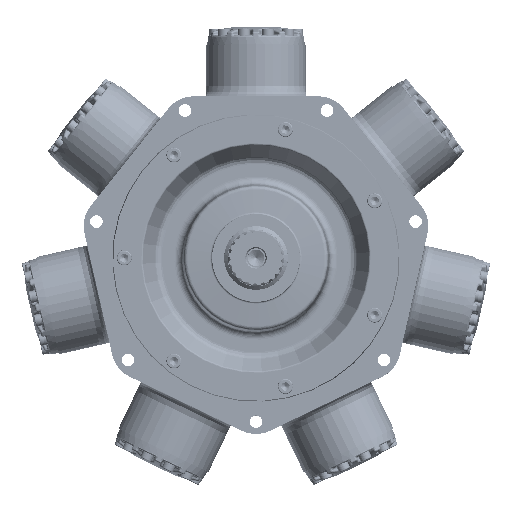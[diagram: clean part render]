
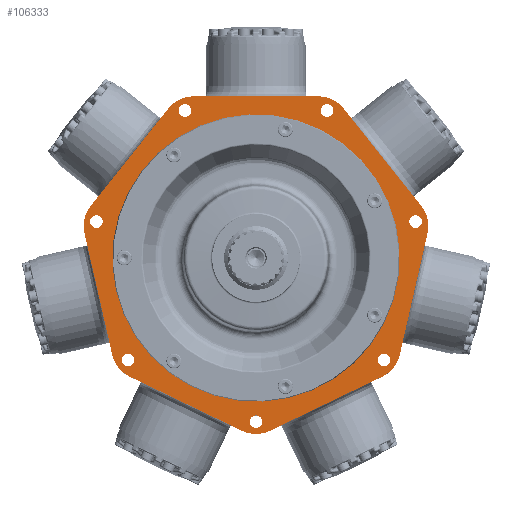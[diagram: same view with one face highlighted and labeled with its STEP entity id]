
A CAD part, top view. The second image highlights one B-rep face of the part: STEP entity #106333.
In plain terms, the highlighted planar face has unit normal (0, 0, 1).
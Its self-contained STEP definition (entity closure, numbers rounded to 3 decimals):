
#1584=FACE_BOUND('',#28086,.T.);
#1585=FACE_BOUND('',#28087,.T.);
#1586=FACE_BOUND('',#28088,.T.);
#1587=FACE_BOUND('',#28089,.T.);
#1588=FACE_BOUND('',#28090,.T.);
#1589=FACE_BOUND('',#28091,.T.);
#1590=FACE_BOUND('',#28092,.T.);
#1591=FACE_BOUND('',#28093,.T.);
#7415=LINE('',#276835,#12183);
#7615=LINE('',#280331,#12383);
#7668=LINE('',#281817,#12436);
#7686=LINE('',#282646,#12454);
#7697=LINE('',#282670,#12465);
#7707=LINE('',#282730,#12475);
#7716=LINE('',#282765,#12484);
#12183=VECTOR('',#135401,10.);
#12383=VECTOR('',#136059,10.);
#12436=VECTOR('',#136354,10.);
#12454=VECTOR('',#136472,10.);
#12465=VECTOR('',#136491,10.);
#12475=VECTOR('',#136535,10.);
#12484=VECTOR('',#136556,10.);
#14187=PLANE('',#114879);
#21442=FACE_OUTER_BOUND('',#28085,.T.);
#28085=EDGE_LOOP('',(#91309,#91310,#91311,#91312,#91313,#91314,#91315,#91316,
#91317,#91318,#91319,#91320,#91321,#91322));
#28086=EDGE_LOOP('',(#91323));
#28087=EDGE_LOOP('',(#91324));
#28088=EDGE_LOOP('',(#91325));
#28089=EDGE_LOOP('',(#91326));
#28090=EDGE_LOOP('',(#91327));
#28091=EDGE_LOOP('',(#91328));
#28092=EDGE_LOOP('',(#91329));
#28093=EDGE_LOOP('',(#91330));
#29930=CIRCLE('',#110167,228.555);
#32065=CIRCLE('',#114743,50.8);
#32080=CIRCLE('',#114765,10.);
#32082=CIRCLE('',#114768,10.);
#32084=CIRCLE('',#114771,10.);
#32086=CIRCLE('',#114774,10.);
#32088=CIRCLE('',#114777,10.);
#32090=CIRCLE('',#114780,10.);
#32092=CIRCLE('',#114783,10.);
#32097=CIRCLE('',#114793,50.8);
#32101=CIRCLE('',#114802,50.8);
#32105=CIRCLE('',#114810,50.8);
#32109=CIRCLE('',#114820,50.8);
#32116=CIRCLE('',#114836,50.8);
#32120=CIRCLE('',#114844,50.8);
#40994=VERTEX_POINT('',#200211);
#45748=VERTEX_POINT('',#276832);
#45749=VERTEX_POINT('',#276834);
#46028=VERTEX_POINT('',#280328);
#46029=VERTEX_POINT('',#280330);
#46116=VERTEX_POINT('',#281814);
#46117=VERTEX_POINT('',#281816);
#46122=VERTEX_POINT('',#281829);
#46137=VERTEX_POINT('',#282578);
#46139=VERTEX_POINT('',#282584);
#46141=VERTEX_POINT('',#282590);
#46143=VERTEX_POINT('',#282596);
#46145=VERTEX_POINT('',#282602);
#46147=VERTEX_POINT('',#282608);
#46149=VERTEX_POINT('',#282614);
#46155=VERTEX_POINT('',#282645);
#46159=VERTEX_POINT('',#282656);
#46164=VERTEX_POINT('',#282669);
#46168=VERTEX_POINT('',#282716);
#46173=VERTEX_POINT('',#282729);
#46180=VERTEX_POINT('',#282762);
#46181=VERTEX_POINT('',#282764);
#52625=EDGE_CURVE('',#40994,#40994,#29930,.T.);
#60484=EDGE_CURVE('',#45748,#45749,#7415,.T.);
#60925=EDGE_CURVE('',#46028,#46029,#7615,.T.);
#61094=EDGE_CURVE('',#46116,#46117,#7668,.T.);
#61101=EDGE_CURVE('',#46029,#46122,#32065,.T.);
#61138=EDGE_CURVE('',#46137,#46137,#32080,.T.);
#61141=EDGE_CURVE('',#46139,#46139,#32082,.T.);
#61144=EDGE_CURVE('',#46141,#46141,#32084,.T.);
#61147=EDGE_CURVE('',#46143,#46143,#32086,.T.);
#61150=EDGE_CURVE('',#46145,#46145,#32088,.T.);
#61153=EDGE_CURVE('',#46147,#46147,#32090,.T.);
#61156=EDGE_CURVE('',#46149,#46149,#32092,.T.);
#61166=EDGE_CURVE('',#46122,#46155,#7686,.T.);
#61172=EDGE_CURVE('',#46155,#46159,#32097,.T.);
#61179=EDGE_CURVE('',#46159,#46164,#7697,.T.);
#61186=EDGE_CURVE('',#45749,#46028,#32101,.T.);
#61192=EDGE_CURVE('',#46117,#46168,#32105,.T.);
#61199=EDGE_CURVE('',#46168,#46173,#7707,.T.);
#61211=EDGE_CURVE('',#46180,#46181,#7716,.T.);
#61214=EDGE_CURVE('',#46173,#46180,#32109,.T.);
#61228=EDGE_CURVE('',#46164,#46116,#32116,.T.);
#61234=EDGE_CURVE('',#46181,#45748,#32120,.T.);
#91309=ORIENTED_EDGE('',*,*,#61199,.F.);
#91310=ORIENTED_EDGE('',*,*,#61192,.F.);
#91311=ORIENTED_EDGE('',*,*,#61094,.F.);
#91312=ORIENTED_EDGE('',*,*,#61228,.F.);
#91313=ORIENTED_EDGE('',*,*,#61179,.F.);
#91314=ORIENTED_EDGE('',*,*,#61172,.F.);
#91315=ORIENTED_EDGE('',*,*,#61166,.F.);
#91316=ORIENTED_EDGE('',*,*,#61101,.F.);
#91317=ORIENTED_EDGE('',*,*,#60925,.F.);
#91318=ORIENTED_EDGE('',*,*,#61186,.F.);
#91319=ORIENTED_EDGE('',*,*,#60484,.F.);
#91320=ORIENTED_EDGE('',*,*,#61234,.F.);
#91321=ORIENTED_EDGE('',*,*,#61211,.F.);
#91322=ORIENTED_EDGE('',*,*,#61214,.F.);
#91323=ORIENTED_EDGE('',*,*,#61138,.T.);
#91324=ORIENTED_EDGE('',*,*,#61141,.T.);
#91325=ORIENTED_EDGE('',*,*,#61144,.T.);
#91326=ORIENTED_EDGE('',*,*,#61147,.T.);
#91327=ORIENTED_EDGE('',*,*,#61150,.T.);
#91328=ORIENTED_EDGE('',*,*,#61153,.T.);
#91329=ORIENTED_EDGE('',*,*,#61156,.T.);
#91330=ORIENTED_EDGE('',*,*,#52625,.F.);
#106333=ADVANCED_FACE('',(#21442,#1584,#1585,#1586,#1587,#1588,#1589,#1590,
#1591),#14187,.F.);
#110167=AXIS2_PLACEMENT_3D('',#200212,#124549,#124550);
#114743=AXIS2_PLACEMENT_3D('',#281830,#136364,#136365);
#114765=AXIS2_PLACEMENT_3D('',#282579,#136409,#136410);
#114768=AXIS2_PLACEMENT_3D('',#282585,#136416,#136417);
#114771=AXIS2_PLACEMENT_3D('',#282591,#136423,#136424);
#114774=AXIS2_PLACEMENT_3D('',#282597,#136430,#136431);
#114777=AXIS2_PLACEMENT_3D('',#282603,#136437,#136438);
#114780=AXIS2_PLACEMENT_3D('',#282609,#136444,#136445);
#114783=AXIS2_PLACEMENT_3D('',#282615,#136451,#136452);
#114793=AXIS2_PLACEMENT_3D('',#282657,#136481,#136482);
#114802=AXIS2_PLACEMENT_3D('',#282693,#136508,#136509);
#114810=AXIS2_PLACEMENT_3D('',#282717,#136525,#136526);
#114820=AXIS2_PLACEMENT_3D('',#282769,#136562,#136563);
#114836=AXIS2_PLACEMENT_3D('',#282831,#136598,#136599);
#114844=AXIS2_PLACEMENT_3D('',#282853,#136615,#136616);
#114879=AXIS2_PLACEMENT_3D('',#282894,#136688,#136689);
#124549=DIRECTION('center_axis',(0.,0.,
1.));
#124550=DIRECTION('ref_axis',(0.223,-0.975,0.));
#135401=DIRECTION('',(0.623,-0.782,0.));
#136059=DIRECTION('',(-0.223,-0.975,0.));
#136354=DIRECTION('',(-0.223,0.975,0.));
#136364=DIRECTION('center_axis',(0.,0.,-1.));
#136365=DIRECTION('ref_axis',(0.975,-0.223,0.));
#136409=DIRECTION('center_axis',(0.,0.,-1.));
#136410=DIRECTION('ref_axis',(1.,0.,0.));
#136416=DIRECTION('center_axis',(0.,0.,-1.));
#136417=DIRECTION('ref_axis',(1.,0.,0.));
#136423=DIRECTION('center_axis',(0.,0.,-1.));
#136424=DIRECTION('ref_axis',(1.,0.,0.));
#136430=DIRECTION('center_axis',(0.,0.,-1.));
#136431=DIRECTION('ref_axis',(1.,0.,0.));
#136437=DIRECTION('center_axis',(0.,0.,-1.));
#136438=DIRECTION('ref_axis',(1.,0.,0.));
#136444=DIRECTION('center_axis',(0.,0.,-1.));
#136445=DIRECTION('ref_axis',(1.,0.,0.));
#136451=DIRECTION('center_axis',(0.,0.,-1.));
#136452=DIRECTION('ref_axis',(1.,0.,0.));
#136472=DIRECTION('',(-0.901,-0.434,0.));
#136481=DIRECTION('center_axis',(0.,0.,-1.));
#136482=DIRECTION('ref_axis',(0.434,-0.901,0.));
#136491=DIRECTION('',(-0.901,0.434,0.));
#136508=DIRECTION('center_axis',(0.,0.,-1.));
#136509=DIRECTION('ref_axis',(0.782,0.623,0.));
#136525=DIRECTION('center_axis',(0.,0.,-1.));
#136526=DIRECTION('ref_axis',(-0.975,-0.223,0.));
#136535=DIRECTION('',(0.623,0.782,0.));
#136556=DIRECTION('',(1.,0.,0.));
#136562=DIRECTION('center_axis',(0.,0.,-1.));
#136563=DIRECTION('ref_axis',(-0.782,0.623,0.));
#136598=DIRECTION('center_axis',(0.,0.,-1.));
#136599=DIRECTION('ref_axis',(-0.434,-0.901,0.));
#136615=DIRECTION('center_axis',(0.,0.,-1.));
#136616=DIRECTION('ref_axis',(0.,1.,0.));
#136688=DIRECTION('center_axis',(0.,0.,-1.));
#136689=DIRECTION('ref_axis',(-1.,0.,0.));
#200211=CARTESIAN_POINT('',(222.825,50.858,-6.59));
#200212=CARTESIAN_POINT('Origin',(0.,0.,
-6.59));
#276832=CARTESIAN_POINT('',(139.102,238.048,-6.59));
#276834=CARTESIAN_POINT('',(263.033,82.644,-6.59));
#276835=CARTESIAN_POINT('',(124.931,255.818,-6.59));
#280328=CARTESIAN_POINT('',(272.842,39.666,-6.59));
#280330=CARTESIAN_POINT('',(228.612,-154.12,-6.59));
#280331=CARTESIAN_POINT('',(287.342,103.193,-6.59));
#281814=CARTESIAN_POINT('',(-228.612,-154.12,-6.59));
#281816=CARTESIAN_POINT('',(-272.842,39.666,-6.59));
#281817=CARTESIAN_POINT('',(-309.457,200.086,-6.59));
#281829=CARTESIAN_POINT('',(201.127,-188.585,-6.59));
#281830=CARTESIAN_POINT('Origin',(179.086,-142.816,-6.59));
#282578=CARTESIAN_POINT('',(-10.,-260.35,-6.59));
#282579=CARTESIAN_POINT('Origin',(0.,-260.35,-6.59));
#282584=CARTESIAN_POINT('',(243.822,57.933,-6.59));
#282585=CARTESIAN_POINT('Origin',(253.822,57.933,-6.59));
#282590=CARTESIAN_POINT('',(-263.822,57.933,-6.59));
#282591=CARTESIAN_POINT('Origin',(-253.822,57.933,-6.59));
#282596=CARTESIAN_POINT('',(193.55,-162.326,-6.59));
#282597=CARTESIAN_POINT('Origin',(203.55,-162.326,-6.59));
#282602=CARTESIAN_POINT('',(102.962,234.567,-6.59));
#282603=CARTESIAN_POINT('Origin',(112.962,234.567,-6.59));
#282608=CARTESIAN_POINT('',(-122.962,234.567,-6.59));
#282609=CARTESIAN_POINT('Origin',(-112.962,234.567,-6.59));
#282614=CARTESIAN_POINT('',(-213.55,-162.326,-6.59));
#282615=CARTESIAN_POINT('Origin',(-203.55,-162.326,-6.59));
#282645=CARTESIAN_POINT('',(22.041,-274.828,-6.59));
#282646=CARTESIAN_POINT('',(152.715,-211.899,-6.59));
#282656=CARTESIAN_POINT('',(-22.041,-274.828,-6.59));
#282657=CARTESIAN_POINT('Origin',(0.,-229.059,
-6.59));
#282669=CARTESIAN_POINT('',(-201.127,-188.585,-6.59));
#282670=CARTESIAN_POINT('',(-242.258,-168.777,-6.59));
#282693=CARTESIAN_POINT('Origin',(223.316,50.97,-6.59));
#282716=CARTESIAN_POINT('',(-263.033,82.644,-6.59));
#282717=CARTESIAN_POINT('Origin',(-223.316,50.97,-6.59));
#282729=CARTESIAN_POINT('',(-139.102,238.048,-6.59));
#282730=CARTESIAN_POINT('',(-62.966,333.52,-6.59));
#282762=CARTESIAN_POINT('',(-99.385,257.175,-6.59));
#282764=CARTESIAN_POINT('',(99.385,257.175,-6.59));
#282765=CARTESIAN_POINT('',(49.692,257.175,-6.59));
#282769=CARTESIAN_POINT('Origin',(-99.385,206.375,-6.59));
#282831=CARTESIAN_POINT('Origin',(-179.086,-142.816,-6.59));
#282853=CARTESIAN_POINT('Origin',(99.385,206.375,-6.59));
#282894=CARTESIAN_POINT('Origin',(0.,439.494,-6.59));
